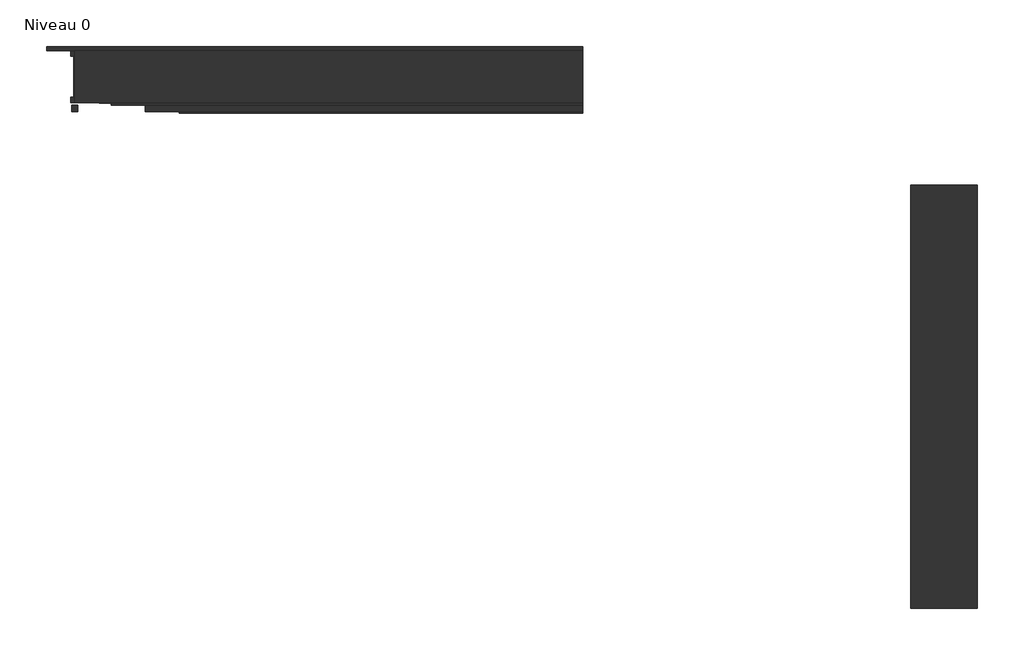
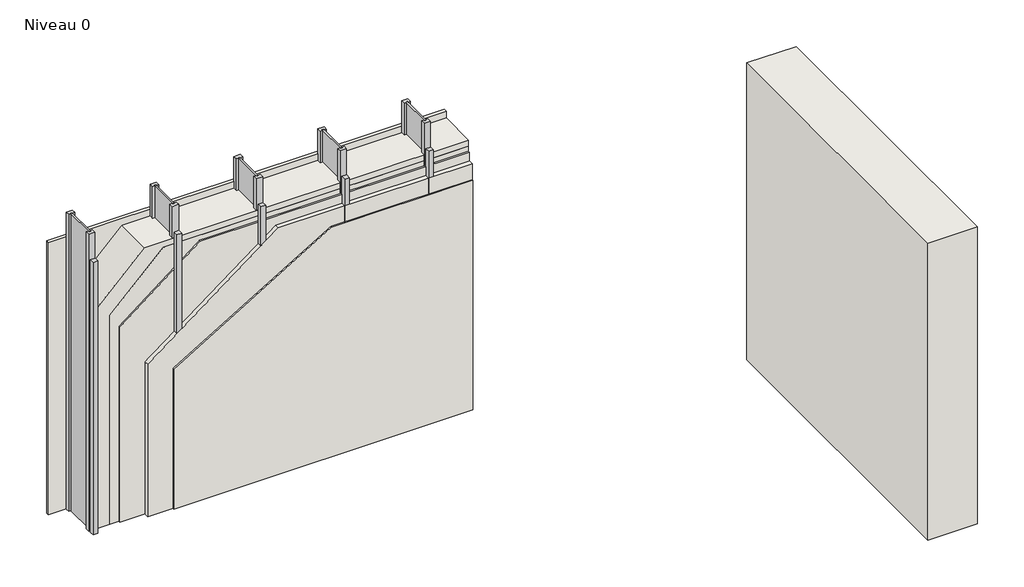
# One storey: 10 columns, 7 walls.
"""IFC4 building model written with IfcOpenShell, lengths in millimetres."""

from ifc_helpers import new_model, si_unit, frame, origin, origin_with_axes, place, context, project, spatial, polyline, outline, extrude, transform, mapped, element, save
from components import column_45x45_22a1cd90

model = new_model("IFC4")

# Units and contexts
model_context = context("Model", 3, world=origin())
ifc_project = project(units=[si_unit("LENGTHUNIT", "METRE", prefix="MILLI")], contexts=[model_context])

# Site, building, storey
site = spatial("IfcSite", under=ifc_project)
building = spatial("IfcBuilding", under=site)
storey = spatial("IfcBuildingStorey", under=building, Name="Niveau 0", Elevation=0.0)

# Columns
placement = place(None, origin())
element("IfcColumn", 1, ObjectType="Poteau-Poutre en I : 370 x 60 x 40", at=placement, inside=storey, context=model_context, shape_type="SweptSolid", body=[
    extrude(outline(polyline([(-5945.0543614, -903.2584766), (-5885.0543614, -903.2584766), (-5885.0543614, -943.2584766), (-5907.5543614, -943.2584766), (-5907.5543614, -933.2584766), (-5922.5543614, -933.2584766), (-5922.5543614, -943.2584766), (-5945.0543614, -943.2584766), (-5945.0543614, -903.2584766)])), origin_with_axes(), (0.0, 0.0, 1.0), 3000.0),
    extrude(outline(polyline([(-5945.0543614, -1273.2584766), (-5945.0543614, -1233.2584766), (-5922.5543614, -1233.2584766), (-5922.5543614, -1243.2584766), (-5907.5543614, -1243.2584766), (-5907.5543614, -1233.2584766), (-5885.0543614, -1233.2584766), (-5885.0543614, -1273.2584766), (-5945.0543614, -1273.2584766)])), origin_with_axes(), (0.0, 0.0, 1.0), 3000.0),
    extrude(outline(polyline([(-5907.5543614, -933.2584766), (-5907.5543614, -1243.2584766), (-5922.5543614, -1243.2584766), (-5922.5543614, -933.2584766), (-5907.5543614, -933.2584766)])), origin_with_axes(), (0.0, 0.0, 1.0), 3000.0),
])
element("IfcColumn", 2, ObjectType="Poteau-Poutre en I : 370 x 60 x 40", at=placement, inside=storey, context=model_context, shape_type="SweptSolid", body=[
    extrude(outline(polyline([(-5143.5408085, -903.2584766), (-5083.5408085, -903.2584766), (-5083.5408085, -943.2584766), (-5106.0408085, -943.2584766), (-5106.0408085, -933.2584766), (-5121.0408085, -933.2584766), (-5121.0408085, -943.2584766), (-5143.5408085, -943.2584766), (-5143.5408085, -903.2584766)])), origin_with_axes(), (0.0, 0.0, 1.0), 3000.0),
    extrude(outline(polyline([(-5143.5408085, -1273.2584766), (-5143.5408085, -1233.2584766), (-5121.0408085, -1233.2584766), (-5121.0408085, -1243.2584766), (-5106.0408085, -1243.2584766), (-5106.0408085, -1233.2584766), (-5083.5408085, -1233.2584766), (-5083.5408085, -1273.2584766), (-5143.5408085, -1273.2584766)])), origin_with_axes(), (0.0, 0.0, 1.0), 3000.0),
    extrude(outline(polyline([(-5106.0408085, -933.2584766), (-5106.0408085, -1243.2584766), (-5121.0408085, -1243.2584766), (-5121.0408085, -933.2584766), (-5106.0408085, -933.2584766)])), origin_with_axes(), (0.0, 0.0, 1.0), 3000.0),
])
element("IfcColumn", 3, ObjectType="Poteau-Poutre en I : 370 x 60 x 40", at=placement, inside=storey, context=model_context, shape_type="SweptSolid", body=[
    extrude(outline(polyline([(-4342.0272556, -903.2584766), (-4282.0272556, -903.2584766), (-4282.0272556, -943.2584766), (-4304.5272556, -943.2584766), (-4304.5272556, -933.2584766), (-4319.5272556, -933.2584766), (-4319.5272556, -943.2584766), (-4342.0272556, -943.2584766), (-4342.0272556, -903.2584766)])), origin_with_axes(), (0.0, 0.0, 1.0), 3000.0),
    extrude(outline(polyline([(-4342.0272556, -1273.2584766), (-4342.0272556, -1233.2584766), (-4319.5272556, -1233.2584766), (-4319.5272556, -1243.2584766), (-4304.5272556, -1243.2584766), (-4304.5272556, -1233.2584766), (-4282.0272556, -1233.2584766), (-4282.0272556, -1273.2584766), (-4342.0272556, -1273.2584766)])), origin_with_axes(), (0.0, 0.0, 1.0), 3000.0),
    extrude(outline(polyline([(-4304.5272556, -933.2584766), (-4304.5272556, -1243.2584766), (-4319.5272556, -1243.2584766), (-4319.5272556, -933.2584766), (-4304.5272556, -933.2584766)])), origin_with_axes(), (0.0, 0.0, 1.0), 3000.0),
])
element("IfcColumn", 4, ObjectType="Poteau-Poutre en I : 370 x 60 x 40", at=placement, inside=storey, context=model_context, shape_type="SweptSolid", body=[
    extrude(outline(polyline([(-3540.5137028, -903.2584766), (-3480.5137028, -903.2584766), (-3480.5137028, -943.2584766), (-3503.0137028, -943.2584766), (-3503.0137028, -933.2584766), (-3518.0137028, -933.2584766), (-3518.0137028, -943.2584766), (-3540.5137028, -943.2584766), (-3540.5137028, -903.2584766)])), origin_with_axes(), (0.0, 0.0, 1.0), 3000.0),
    extrude(outline(polyline([(-3540.5137028, -1273.2584766), (-3540.5137028, -1233.2584766), (-3518.0137028, -1233.2584766), (-3518.0137028, -1243.2584766), (-3503.0137028, -1243.2584766), (-3503.0137028, -1233.2584766), (-3480.5137028, -1233.2584766), (-3480.5137028, -1273.2584766), (-3540.5137028, -1273.2584766)])), origin_with_axes(), (0.0, 0.0, 1.0), 3000.0),
    extrude(outline(polyline([(-3503.0137028, -933.2584766), (-3503.0137028, -1243.2584766), (-3518.0137028, -1243.2584766), (-3518.0137028, -933.2584766), (-3503.0137028, -933.2584766)])), origin_with_axes(), (0.0, 0.0, 1.0), 3000.0),
])
element("IfcColumn", 5, ObjectType="Poteau-Poutre en I : 370 x 60 x 40", at=placement, inside=storey, context=model_context, shape_type="SweptSolid", body=[
    extrude(outline(polyline([(-2739.0001499, -903.2584766), (-2679.0001499, -903.2584766), (-2679.0001499, -943.2584766), (-2701.5001499, -943.2584766), (-2701.5001499, -933.2584766), (-2716.5001499, -933.2584766), (-2716.5001499, -943.2584766), (-2739.0001499, -943.2584766), (-2739.0001499, -903.2584766)])), origin_with_axes(), (0.0, 0.0, 1.0), 3000.0),
    extrude(outline(polyline([(-2739.0001499, -1273.2584766), (-2739.0001499, -1233.2584766), (-2716.5001499, -1233.2584766), (-2716.5001499, -1243.2584766), (-2701.5001499, -1243.2584766), (-2701.5001499, -1233.2584766), (-2679.0001499, -1233.2584766), (-2679.0001499, -1273.2584766), (-2739.0001499, -1273.2584766)])), origin_with_axes(), (0.0, 0.0, 1.0), 3000.0),
    extrude(outline(polyline([(-2701.5001499, -933.2584766), (-2701.5001499, -1243.2584766), (-2716.5001499, -1243.2584766), (-2716.5001499, -933.2584766), (-2701.5001499, -933.2584766)])), origin_with_axes(), (0.0, 0.0, 1.0), 3000.0),
])
column_45x45_shape = column_45x45_22a1cd90(model_context)
element("IfcColumn", 6, ObjectType="Bois - Bois de construction de dimensions courantes : 45x45", at=placement, inside=storey, context=model_context, shape_type="MappedRepresentation", body=[
    mapped(column_45x45_shape, transform((-5915.0543614, -1312.7584766, 0.0), x_axis=(1.0, 0.0, 0.0), y_axis=(0.0, 1.0, 0.0), z_axis=(0.0, 0.0, 1.0))),
])
element("IfcColumn", 7, ObjectType="Bois - Bois de construction de dimensions courantes : 45x45", at=placement, inside=storey, context=model_context, shape_type="MappedRepresentation", body=[
    mapped(column_45x45_shape, transform((-5113.5408085, -1312.7584766, 0.0), x_axis=(1.0, 0.0, 0.0), y_axis=(0.0, 1.0, 0.0), z_axis=(0.0, 0.0, 1.0))),
])
element("IfcColumn", 8, ObjectType="Bois - Bois de construction de dimensions courantes : 45x45", at=placement, inside=storey, context=model_context, shape_type="MappedRepresentation", body=[
    mapped(column_45x45_shape, transform((-4312.0272556, -1312.7584766, 0.0), x_axis=(1.0, 0.0, 0.0), y_axis=(0.0, 1.0, 0.0), z_axis=(0.0, 0.0, 1.0))),
])
element("IfcColumn", 9, ObjectType="Bois - Bois de construction de dimensions courantes : 45x45", at=placement, inside=storey, context=model_context, shape_type="MappedRepresentation", body=[
    mapped(column_45x45_shape, transform((-3510.5137028, -1312.7584766, 0.0), x_axis=(1.0, 0.0, 0.0), y_axis=(0.0, 1.0, 0.0), z_axis=(0.0, 0.0, 1.0))),
])
element("IfcColumn", 10, ObjectType="Bois - Bois de construction de dimensions courantes : 45x45", at=placement, inside=storey, context=model_context, shape_type="MappedRepresentation", body=[
    mapped(column_45x45_shape, transform((-2709.0001499, -1312.7584766, 0.0), x_axis=(1.0, 0.0, 0.0), y_axis=(0.0, 1.0, 0.0), z_axis=(0.0, 0.0, 1.0))),
])

# Walls
element("IfcWall", 11, ObjectType="Botte de paille", at=placement, inside=storey, context=model_context, shape_type="SweptSolid", body=[
    extrude(outline(polyline([(0.0, -5915.0543614), (0.0, -2315.0543614), (2680.0, -2315.0543614), (2680.0, -5413.4638423), (2178.409481, -5915.0543614), (0.0, -5915.0543614)])), frame((0.0, -1273.2584766, 0.0), z_axis=(0.0, 1.0, 0.0), x_axis=(0.0, 0.0, 1.0)), (0.0, 0.0, 1.0), 370.0),
])
element("IfcWall", 12, ObjectType="Enduit à la chaux", at=placement, inside=storey, context=model_context, shape_type="SweptSolid", body=[
    extrude(outline(polyline([(-2315.0543614, -903.2584766), (-6115.0543614, -903.2584766), (-6115.0543614, -873.2584766), (-2315.0543614, -873.2584766), (-2315.0543614, -903.2584766)])), origin_with_axes(), (0.0, 0.0, 1.0), 2750.0),
])
element("IfcWall", 13, ObjectType="Frein vapeur", at=placement, inside=storey, context=model_context, shape_type="SweptSolid", body=[
    extrude(outline(polyline([(0.0, -5741.4678473), (0.0, -2315.0543614), (2620.0, -2315.0543614), (2620.0, -5231.4678473), (2110.0, -5741.4678473), (0.0, -5741.4678473)])), frame((0.0, -1274.2584766, 0.0), z_axis=(0.0, 1.0, 0.0), x_axis=(0.0, 0.0, 1.0)), (0.0, 0.0, 1.0), 1.0),
])
element("IfcWall", 14, ObjectType="Contreventement", at=placement, inside=storey, context=model_context, shape_type="SweptSolid", body=[
    extrude(outline(polyline([(0.0, -5655.3588823), (0.0, -2315.0543614), (2570.0, -2315.0543614), (2570.0, -4886.3103945), (1969.1534704, -5655.3588823), (0.0, -5655.3588823)])), frame((0.0, -1290.2584766, 0.0), z_axis=(0.0, 1.0, 0.0), x_axis=(0.0, 0.0, 1.0)), (0.0, 0.0, 1.0), 16.0),
])
element("IfcWall", 15, ObjectType="Parement", at=placement, inside=storey, context=model_context, shape_type="SweptSolid", body=[
    extrude(outline(polyline([(0.0, -5175.0543614), (0.0, -2315.0543614), (2320.0, -2315.0543614), (2320.0, -3667.3423693), (1414.0752391, -5175.0543614), (0.0, -5175.0543614)])), frame((0.0, -1347.2584766, 0.0), z_axis=(0.0, 1.0, 0.0), x_axis=(0.0, 0.0, 1.0)), (0.0, 0.0, 1.0), 12.0),
])
element("IfcWall", 16, ObjectType="SBW_04", at=placement, inside=storey, context=model_context, shape_type="SweptSolid", body=[
    extrude(outline(polyline([(7.1937453, -4855.5228881), (7.1937453, -1855.5228881), (481.1937453, -1855.5228881), (481.1937453, -4855.5228881), (7.1937453, -4855.5228881)])), origin_with_axes(), (0.0, 0.0, 1.0), 3000.0),
])
element("IfcWall", 17, ObjectType="Vide technique", at=placement, inside=storey, context=model_context, shape_type="SweptSolid", body=[
    extrude(outline(polyline([(0.0, -5415.0543614), (0.0, -2315.0543614), (2480.0, -2315.0543614), (2480.0, -4166.6728089), (1539.2770251, -5415.0543614), (0.0, -5415.0543614)])), frame((0.0, -1335.2584766, 0.0), z_axis=(0.0, 1.0, 0.0), x_axis=(0.0, 0.0, 1.0)), (0.0, 0.0, 1.0), 45.0),
])

save(model, "model.ifc")
